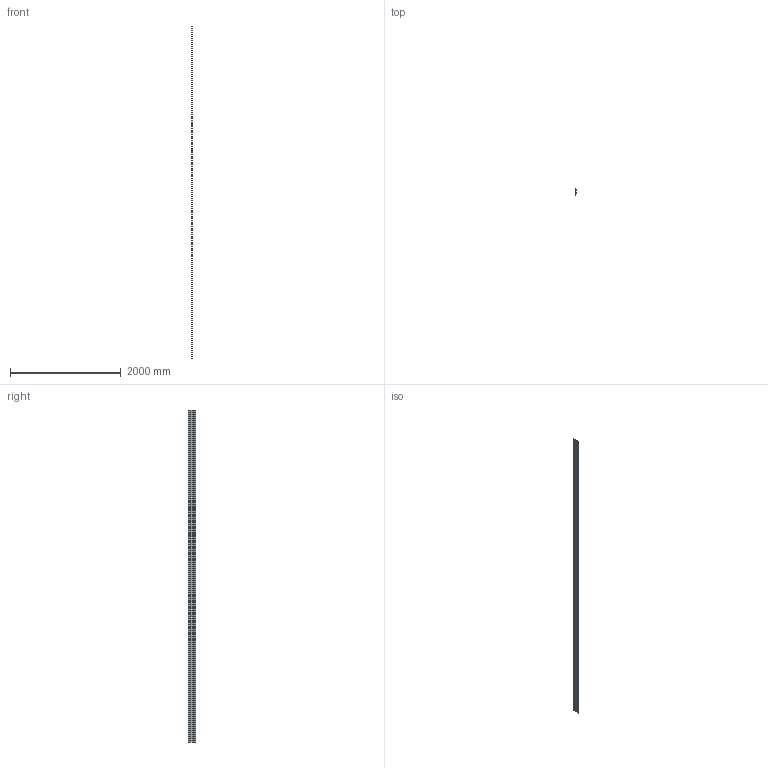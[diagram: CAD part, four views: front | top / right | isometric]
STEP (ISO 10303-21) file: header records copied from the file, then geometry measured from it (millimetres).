
FILE_DESCRIPTION((''),'2;1');
FILE_NAME('S:\Användarkataloger\AndreasA\Mina Inventor filer\Räcken\STEP\sparklist_k130_6000.stp','2010-09-07T13:52:34',('AndreasA'),(''),'Autodesk Inventor 2011','Autodesk Inventor 2011','');
FILE_SCHEMA(('AUTOMOTIVE_DESIGN { 1 0 10303 214 1 1 1 1 }'));
Length unit declared in the file: millimetre
Products named in the file (1): sparklist_k130_6000
Bounding box: 13.41 x 130 x 6000 mm (x, y, z)
Volume: 2191109.2 mm3; surface area: 1783617.8 mm2
Topology: 1 solids, 1 shells, 30 faces, 84 edges, 56 vertices
Faces by surface type: plane 18, cylinder 12
Entity records: 998 total; most frequent: CARTESIAN_POINT 171, DIRECTION 170, ORIENTED_EDGE 168, EDGE_CURVE 84, VECTOR 60, LINE 60, VERTEX_POINT 56, AXIS2_PLACEMENT_3D 55
